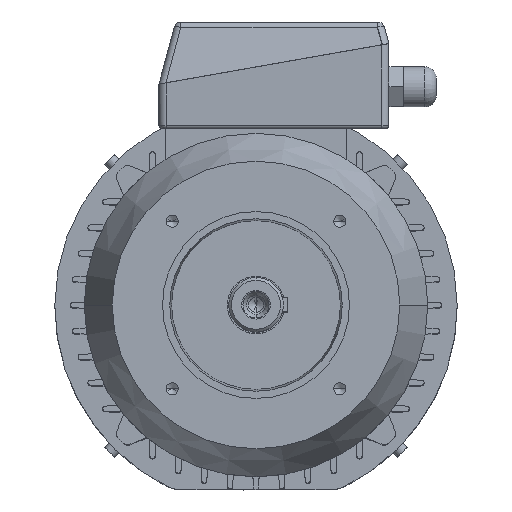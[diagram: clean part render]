
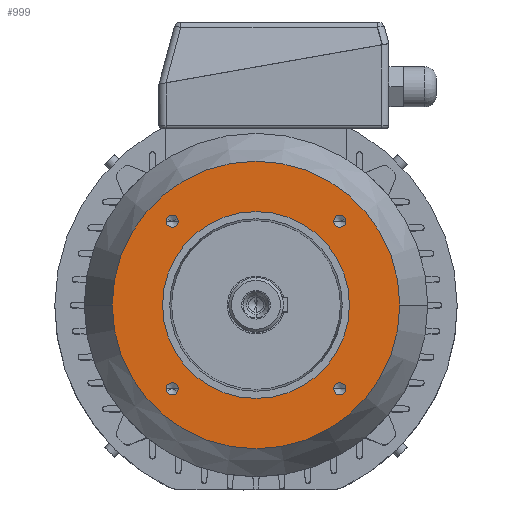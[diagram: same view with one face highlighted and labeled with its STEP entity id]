
A CAD part, top view. The second image highlights one B-rep face of the part: STEP entity #999.
In plain terms, the highlighted planar face has unit normal (0, 0, 1).
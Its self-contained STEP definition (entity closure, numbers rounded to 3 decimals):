
#172 = CIRCLE ( 'NONE', #173, 4.25 ) ;
#173 = AXIS2_PLACEMENT_3D ( 'NONE', #174, #175, #176 ) ;
#174 = CARTESIAN_POINT ( 'NONE',  ( -58.336, 58.336, 58. ) ) ;
#175 = DIRECTION ( 'NONE',  ( 0., 0., 1. ) ) ;
#176 = DIRECTION ( 'NONE',  ( 1., 0., 0. ) ) ;
#224 = VERTEX_POINT ( 'NONE', #14017 ) ;
#463 = EDGE_CURVE ( 'NONE', #1441, #224, #14090, .T. ) ;
#487 = CARTESIAN_POINT ( 'NONE',  ( -54.086, -58.336, 58. ) ) ;
#572 = CIRCLE ( 'NONE', #573, 4.25 ) ;
#573 = AXIS2_PLACEMENT_3D ( 'NONE', #574, #575, #576 ) ;
#574 = CARTESIAN_POINT ( 'NONE',  ( -58.336, -58.336, 58. ) ) ;
#575 = DIRECTION ( 'NONE',  ( 0., 0., 1. ) ) ;
#576 = DIRECTION ( 'NONE',  ( 1., 0., 0. ) ) ;
#729 = VERTEX_POINT ( 'NONE', #14237 ) ;
#999 = ADVANCED_FACE ( 'NONE', ( #14424, #14425, #14426, #14427, #14428, #14429 ), #14430, .F. ) ;
#1047 = CARTESIAN_POINT ( 'NONE',  ( -62.586, -58.336, 58. ) ) ;
#1157 = EDGE_CURVE ( 'NONE', #3433, #12901, #14526, .T. ) ;
#1402 = CARTESIAN_POINT ( 'NONE',  ( -65., 0., 58. ) ) ;
#1441 = VERTEX_POINT ( 'NONE', #14677 ) ;
#1495 = CARTESIAN_POINT ( 'NONE',  ( 65., 0., 58. ) ) ;
#1566 = ORIENTED_EDGE ( 'NONE', *, *, #1157, .T. ) ;
#1617 = CIRCLE ( 'NONE', #1618, 65. ) ;
#1618 = AXIS2_PLACEMENT_3D ( 'NONE', #1619, #1620, #1621 ) ;
#1619 = CARTESIAN_POINT ( 'NONE',  ( 0., 0., 58. ) ) ;
#1620 = DIRECTION ( 'NONE',  ( 0., 0., 1. ) ) ;
#1621 = DIRECTION ( 'NONE',  ( 1., 0., 0. ) ) ;
#2142 = EDGE_LOOP ( 'NONE', ( #1566, #13830 ) ) ;
#2326 = CIRCLE ( 'NONE', #2327, 4.25 ) ;
#2327 = AXIS2_PLACEMENT_3D ( 'NONE', #2328, #2329, #2330 ) ;
#2328 = CARTESIAN_POINT ( 'NONE',  ( 58.336, 58.336, 58. ) ) ;
#2329 = DIRECTION ( 'NONE',  ( 0., 0., 1. ) ) ;
#2330 = DIRECTION ( 'NONE',  ( 1., 0., 0. ) ) ;
#2400 = ORIENTED_EDGE ( 'NONE', *, *, #2564, .F. ) ;
#2564 = EDGE_CURVE ( 'NONE', #6608, #6851, #15159, .T. ) ;
#2977 = ORIENTED_EDGE ( 'NONE', *, *, #7100, .F. ) ;
#3433 = VERTEX_POINT ( 'NONE', #15643 ) ;
#4172 = EDGE_CURVE ( 'NONE', #224, #1441, #172, .T. ) ;
#4586 = ORIENTED_EDGE ( 'NONE', *, *, #4172, .F. ) ;
#4784 = VERTEX_POINT ( 'NONE', #487 ) ;
#5032 = EDGE_CURVE ( 'NONE', #6006, #4784, #572, .T. ) ;
#5151 = EDGE_LOOP ( 'NONE', ( #4586, #12968 ) ) ;
#6006 = VERTEX_POINT ( 'NONE', #1047 ) ;
#6552 = CARTESIAN_POINT ( 'NONE',  ( 62.586, 58.336, 58. ) ) ;
#6608 = VERTEX_POINT ( 'NONE', #1402 ) ;
#6713 = CIRCLE ( 'NONE', #6714, 4.25 ) ;
#6714 = AXIS2_PLACEMENT_3D ( 'NONE', #6715, #6716, #6717 ) ;
#6715 = CARTESIAN_POINT ( 'NONE',  ( 58.336, 58.336, 58. ) ) ;
#6716 = DIRECTION ( 'NONE',  ( 0., 0., 1. ) ) ;
#6717 = DIRECTION ( 'NONE',  ( 1., 0., 0. ) ) ;
#6851 = VERTEX_POINT ( 'NONE', #1495 ) ;
#7100 = EDGE_CURVE ( 'NONE', #6851, #6608, #1617, .T. ) ;
#7551 = CARTESIAN_POINT ( 'NONE',  ( 62.586, -58.336, 58. ) ) ;
#7662 = CIRCLE ( 'NONE', #7663, 4.25 ) ;
#7663 = AXIS2_PLACEMENT_3D ( 'NONE', #7664, #7665, #7666 ) ;
#7664 = CARTESIAN_POINT ( 'NONE',  ( 58.336, -58.336, 58. ) ) ;
#7665 = DIRECTION ( 'NONE',  ( 0., 0., 1. ) ) ;
#7666 = DIRECTION ( 'NONE',  ( 1., 0., 0. ) ) ;
#8146 = CARTESIAN_POINT ( 'NONE',  ( 54.086, -58.336, 58. ) ) ;
#9590 = CARTESIAN_POINT ( 'NONE',  ( 100., 0., 58. ) ) ;
#10136 = CIRCLE ( 'NONE', #10137, 100. ) ;
#10137 = AXIS2_PLACEMENT_3D ( 'NONE', #10138, #10139, #10140 ) ;
#10138 = CARTESIAN_POINT ( 'NONE',  ( 0., 0., 58. ) ) ;
#10139 = DIRECTION ( 'NONE',  ( 0., 0., 1. ) ) ;
#10140 = DIRECTION ( 'NONE',  ( 1., 0., 0. ) ) ;
#10257 = CIRCLE ( 'NONE', #10258, 4.25 ) ;
#10258 = AXIS2_PLACEMENT_3D ( 'NONE', #10259, #10260, #10261 ) ;
#10259 = CARTESIAN_POINT ( 'NONE',  ( 58.336, -58.336, 58. ) ) ;
#10260 = DIRECTION ( 'NONE',  ( 0., 0., 1. ) ) ;
#10261 = DIRECTION ( 'NONE',  ( 1., 0., 0. ) ) ;
#11112 = CIRCLE ( 'NONE', #11113, 4.25 ) ;
#11113 = AXIS2_PLACEMENT_3D ( 'NONE', #11114, #11115, #11124 ) ;
#11114 = CARTESIAN_POINT ( 'NONE',  ( -58.336, -58.336, 58. ) ) ;
#11115 = DIRECTION ( 'NONE',  ( 0., 0., 1. ) ) ;
#11124 = DIRECTION ( 'NONE',  ( 1., 0., 0. ) ) ;
#11142 = VERTEX_POINT ( 'NONE', #7551 ) ;
#11390 = EDGE_CURVE ( 'NONE', #12379, #11142, #7662, .T. ) ;
#12379 = VERTEX_POINT ( 'NONE', #8146 ) ;
#12807 = EDGE_LOOP ( 'NONE', ( #2977, #2400 ) ) ;
#12876 = ORIENTED_EDGE ( 'NONE', *, *, #11390, .F. ) ;
#12901 = VERTEX_POINT ( 'NONE', #9590 ) ;
#12907 = EDGE_LOOP ( 'NONE', ( #13991, #13722 ) ) ;
#12954 = EDGE_CURVE ( 'NONE', #12901, #3433, #10136, .T. ) ;
#12968 = ORIENTED_EDGE ( 'NONE', *, *, #463, .F. ) ;
#13005 = EDGE_CURVE ( 'NONE', #11142, #12379, #10257, .T. ) ;
#13095 = ORIENTED_EDGE ( 'NONE', *, *, #13005, .F. ) ;
#13217 = EDGE_LOOP ( 'NONE', ( #13095, #12876 ) ) ;
#13276 = ORIENTED_EDGE ( 'NONE', *, *, #5032, .F. ) ;
#13401 = EDGE_CURVE ( 'NONE', #4784, #6006, #11112, .T. ) ;
#13492 = ORIENTED_EDGE ( 'NONE', *, *, #13401, .F. ) ;
#13669 = EDGE_LOOP ( 'NONE', ( #13492, #13276 ) ) ;
#13722 = ORIENTED_EDGE ( 'NONE', *, *, #15378, .F. ) ;
#13830 = ORIENTED_EDGE ( 'NONE', *, *, #12954, .T. ) ;
#13842 = EDGE_CURVE ( 'NONE', #15134, #729, #2326, .T. ) ;
#13991 = ORIENTED_EDGE ( 'NONE', *, *, #13842, .F. ) ;
#14017 = CARTESIAN_POINT ( 'NONE',  ( -54.086, 58.336, 58. ) ) ;
#14090 = CIRCLE ( 'NONE', #14091, 4.25 ) ;
#14091 = AXIS2_PLACEMENT_3D ( 'NONE', #14103, #14104, #14105 ) ;
#14103 = CARTESIAN_POINT ( 'NONE',  ( -58.336, 58.336, 58. ) ) ;
#14104 = DIRECTION ( 'NONE',  ( 0., 0., 1. ) ) ;
#14105 = DIRECTION ( 'NONE',  ( 1., 0., 0. ) ) ;
#14237 = CARTESIAN_POINT ( 'NONE',  ( 54.086, 58.336, 58. ) ) ;
#14424 = FACE_BOUND ( 'NONE', #5151, .T. ) ;
#14425 = FACE_BOUND ( 'NONE', #12907, .T. ) ;
#14426 = FACE_BOUND ( 'NONE', #13669, .T. ) ;
#14427 = FACE_BOUND ( 'NONE', #13217, .T. ) ;
#14428 = FACE_BOUND ( 'NONE', #12807, .T. ) ;
#14429 = FACE_OUTER_BOUND ( 'NONE', #2142, .T. ) ;
#14430 = PLANE ( 'NONE',  #14431 ) ;
#14431 = AXIS2_PLACEMENT_3D ( 'NONE', #14432, #14433, #14434 ) ;
#14432 = CARTESIAN_POINT ( 'NONE',  ( 0., 100., 58. ) ) ;
#14433 = DIRECTION ( 'NONE',  ( 0., 0., -1. ) ) ;
#14434 = DIRECTION ( 'NONE',  ( -1., 0., 0. ) ) ;
#14526 = CIRCLE ( 'NONE', #14527, 100. ) ;
#14527 = AXIS2_PLACEMENT_3D ( 'NONE', #14528, #14529, #14530 ) ;
#14528 = CARTESIAN_POINT ( 'NONE',  ( 0., 0., 58. ) ) ;
#14529 = DIRECTION ( 'NONE',  ( 0., 0., 1. ) ) ;
#14530 = DIRECTION ( 'NONE',  ( 1., 0., 0. ) ) ;
#14677 = CARTESIAN_POINT ( 'NONE',  ( -62.586, 58.336, 58. ) ) ;
#15134 = VERTEX_POINT ( 'NONE', #6552 ) ;
#15159 = CIRCLE ( 'NONE', #15160, 65. ) ;
#15160 = AXIS2_PLACEMENT_3D ( 'NONE', #15161, #15162, #15163 ) ;
#15161 = CARTESIAN_POINT ( 'NONE',  ( 0., 0., 58. ) ) ;
#15162 = DIRECTION ( 'NONE',  ( 0., 0., 1. ) ) ;
#15163 = DIRECTION ( 'NONE',  ( 1., 0., 0. ) ) ;
#15378 = EDGE_CURVE ( 'NONE', #729, #15134, #6713, .T. ) ;
#15643 = CARTESIAN_POINT ( 'NONE',  ( -100., 0., 58. ) ) ;
